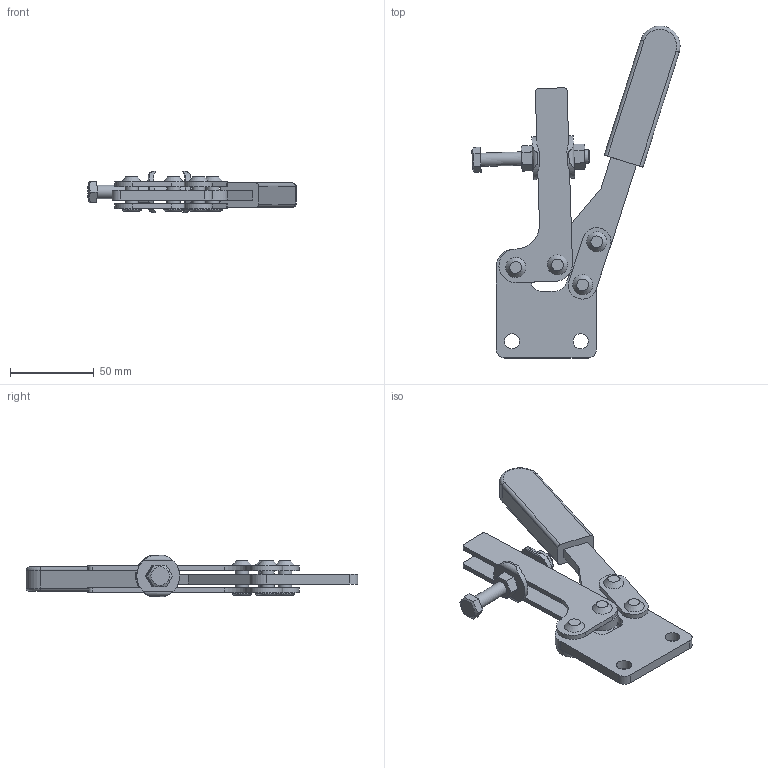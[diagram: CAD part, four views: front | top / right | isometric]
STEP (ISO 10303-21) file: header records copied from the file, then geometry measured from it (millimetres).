
FILE_DESCRIPTION(/* description */ (''),/* implementation_level */ '2;1');
FILE_NAME(/* name */ 'D:\3D作業領域\3D\43B\No.43B (ul).stp',/* time_stamp */ '2021-12-03T10:00:28+09:00',/* author */ ('y-takahashi'),/* organization */ (''),/* preprocessor_version */ 'ST-DEVELOPER v18',/* originating_system */ 'Autodesk Inventor 2020',/* authorisation */ '');
FILE_SCHEMA (('AUTOMOTIVE_DESIGN { 1 0 10303 214 3 1 1 }'));
Length unit declared in the file: millimetre
Products named in the file (13): No.43B (ul); 43Bベース; 43アーム; 43アーム_1; 43リンク; 43リンク_1; 43リベット; 43ハンドル; 43AGRP; 43SPD; 43座金; M8ナット; M8×65ボルト
Assembly tree (16 placements, depth 3):
  No.43B (ul)
    43Bベース
    43アーム
      43アーム_1
      43リベット  x2
    43リンク
      43リンク_1
      43リベット  x2
    43ハンドル
    43AGRP
    43SPD
      43座金
      M8ナット  x2
      M8×65ボルト
Bounding box: 124.48 x 198.5 x 24.6 mm (x, y, z)
Volume: 84447.3 mm3; surface area: 49011.9 mm2
Topology: 16 solids, 16 shells, 215 faces, 518 edges, 349 vertices
Faces by surface type: plane 104, cylinder 79, cone 22, torus 10
Full cylindrical faces by diameter (mm): 5.5 x4, 6.647 x2, 8 x17, 8.4 x2, 9 x2, 11.5 x4
Entity records: 5438 total; most frequent: CARTESIAN_POINT 964, DIRECTION 898, ORIENTED_EDGE 774, EDGE_CURVE 387, AXIS2_PLACEMENT_3D 349, VERTEX_POINT 257, LINE 200, VECTOR 200
